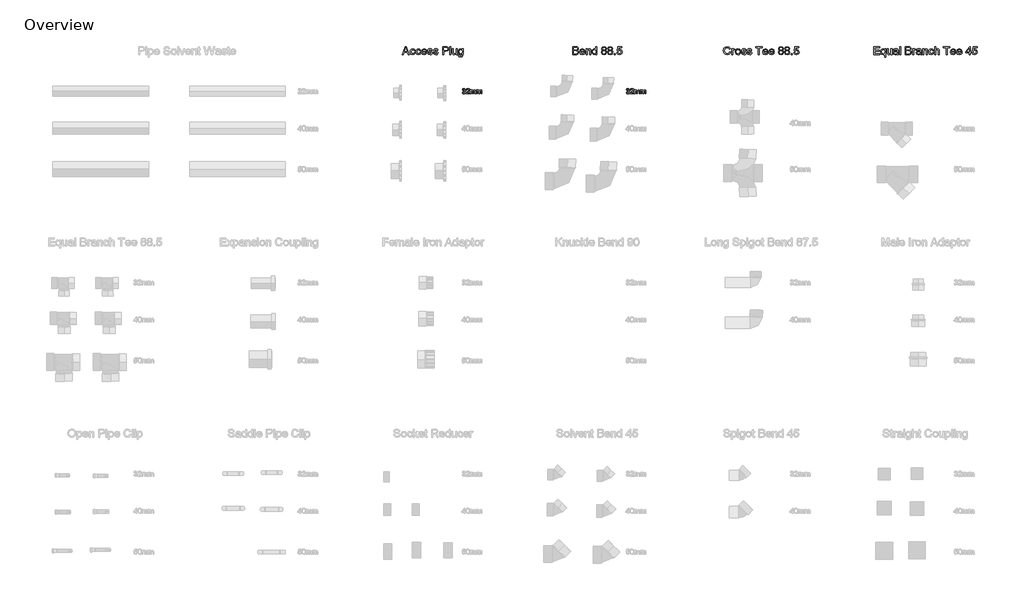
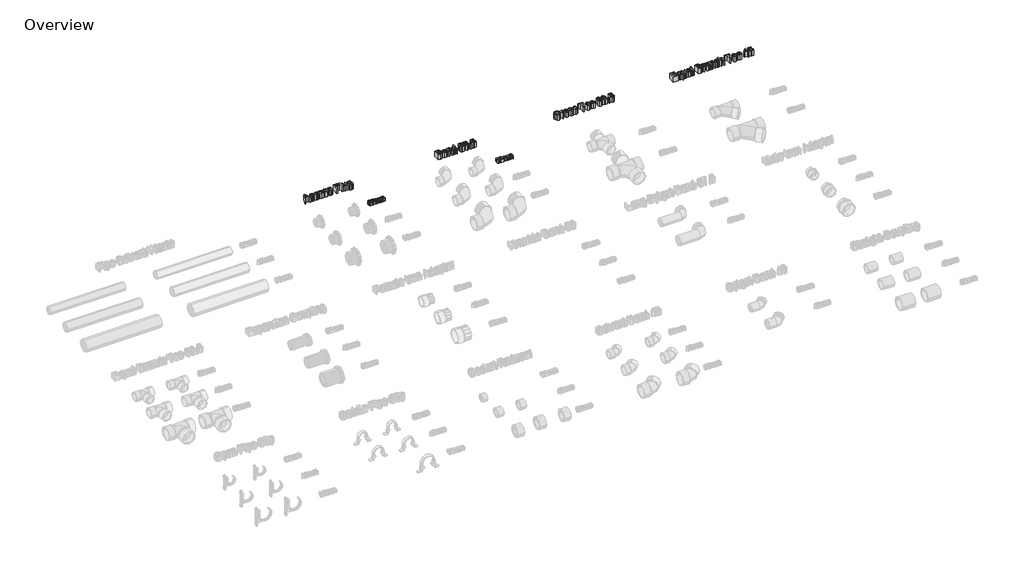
# One storey, part 9 of 10: 6 proxies.
"""IFC4 building model written with IfcOpenShell, lengths in millimetres."""

from ifc_helpers import new_model, si_unit, origin, origin_with_axes, place, context, project, spatial, polyline, outline, extrude, element, save

model = new_model("IFC4")

# Units and contexts
model_context = context("Model", 3, world=origin())
ifc_project = project(units=[si_unit("LENGTHUNIT", "METRE", prefix="MILLI")], contexts=[model_context])

# Site, building, storey
site = spatial("IfcSite", under=ifc_project)
building = spatial("IfcBuilding", under=site)
storey = spatial("IfcBuildingStorey", under=building, Name="Overview", Elevation=0.0)

# Proxies
placement = place(None, origin())
element("IfcBuildingElementProxy", 1, Name="20mm Arial", ObjectType="20mm Arial", at=placement, inside=storey, context=model_context, shape_type="SweptSolid", body=[
    extrude(outline(polyline([(-1698.2349117, 5121.4652453), (-1695.7733732, 5121.7729376), (-1694.4152001, 5119.1815914), (-1691.8743347, 5118.3883222), (-1688.8839501, 5119.4796684), (-1687.7733732, 5122.1815914), (-1688.8743347, 5124.7272645), (-1691.6724117, 5125.7344761), (-1693.3983732, 5125.4652453), (-1693.1243347, 5127.9267837), (-1689.9368347, 5128.6046684), (-1688.6964501, 5130.7777453), (-1689.5954886, 5132.7032261), (-1691.9127963, 5133.4652453), (-1694.2589501, 5132.6960145), (-1695.4656809, 5130.3883222), (-1697.9272194, 5130.6960145), (-1695.9127963, 5134.5565914), (-1691.9993347, 5135.9267837), (-1689.0305847, 5135.251303), (-1686.9536617, 5133.4051491), (-1686.2349117, 5130.9219761), (-1686.917604, 5128.6527453), (-1688.9368347, 5127.0229376), (-1686.2541424, 5125.3402453), (-1685.3118347, 5122.1383222), (-1687.1964501, 5117.7344761), (-1691.9608732, 5115.9267837), (-1696.2781809, 5117.470053), (-1698.2349117, 5121.4652453)])), origin_with_axes(), (0.0, 0.0, 1.0), 15.0),
    extrude(outline(polyline([(-1670.542604, 5118.6960145), (-1670.542604, 5116.2344761), (-1683.4656809, 5116.2344761), (-1683.2012578, 5117.9315914), (-1681.7060655, 5120.5445722), (-1678.6243347, 5123.3979376), (-1674.3743347, 5127.4988991), (-1673.3118347, 5130.2873607), (-1674.3142386, 5132.5445722), (-1676.9320271, 5133.4652453), (-1679.6603924, 5132.5662068), (-1680.6964501, 5130.0806299), (-1683.1579886, 5130.3883222), (-1681.2709694, 5134.5085145), (-1676.8791424, 5135.9267837), (-1672.4728924, 5134.3498607), (-1670.8502963, 5130.4363991), (-1671.2877963, 5128.1022645), (-1672.7421232, 5125.688803), (-1676.2685655, 5122.3162068), (-1679.1002963, 5119.9484184), (-1680.2108732, 5118.6960145), (-1670.542604, 5118.6960145)])), origin_with_axes(), (0.0, 0.0, 1.0), 15.0),
    extrude(outline(polyline([(-1667.4656809, 5116.2344761), (-1667.4656809, 5130.6960145), (-1665.0041424, 5130.6960145), (-1665.0041424, 5128.3162068), (-1663.3118347, 5130.2657261), (-1660.9031809, 5131.0037068), (-1658.4368347, 5130.251303), (-1657.0810655, 5128.1431299), (-1652.7349117, 5131.0037068), (-1649.5161617, 5129.813803), (-1648.3887578, 5126.1479376), (-1648.3887578, 5116.2344761), (-1650.8502963, 5116.2344761), (-1650.8502963, 5125.0902453), (-1651.0786617, 5127.1455337), (-1655.7325078, 5127.5565914), (-1656.6964501, 5124.3979376), (-1656.6964501, 5116.2344761), (-1659.1579886, 5116.2344761), (-1659.1579886, 5125.3642837), (-1659.7277001, 5127.7488991), (-1661.5954886, 5128.5421684), (-1663.417604, 5128.0133222), (-1664.6291424, 5126.4652453), (-1665.0041424, 5123.5277453), (-1665.0041424, 5116.2344761), (-1667.4656809, 5116.2344761)])), origin_with_axes(), (0.0, 0.0, 1.0), 15.0),
    extrude(outline(polyline([(-1644.6964501, 5116.2344761), (-1644.6964501, 5130.6960145), (-1642.2349117, 5130.6960145), (-1642.2349117, 5128.3162068), (-1640.542604, 5130.2657261), (-1638.1339501, 5131.0037068), (-1635.667604, 5130.251303), (-1634.3118347, 5128.1431299), (-1629.9656809, 5131.0037068), (-1626.7469309, 5129.813803), (-1625.6195271, 5126.1479376), (-1625.6195271, 5116.2344761), (-1628.0810655, 5116.2344761), (-1628.0810655, 5125.0902453), (-1628.3094309, 5127.1455337), (-1632.9632771, 5127.5565914), (-1633.9272194, 5124.3979376), (-1633.9272194, 5116.2344761), (-1636.3887578, 5116.2344761), (-1636.3887578, 5125.3642837), (-1636.9584694, 5127.7488991), (-1638.8262578, 5128.5421684), (-1640.6483732, 5128.0133222), (-1641.8599117, 5126.4652453), (-1642.2349117, 5123.5277453), (-1642.2349117, 5116.2344761), (-1644.6964501, 5116.2344761)])), origin_with_axes(), (0.0, 0.0, 1.0), 15.0),
])
element("IfcBuildingElementProxy", 2, Name="20mm Arial", ObjectType="20mm Arial", at=placement, inside=storey, context=model_context, shape_type="SweptSolid", body=[
    extrude(outline(polyline([(-1098.2349117, 5121.4652453), (-1095.7733732, 5121.7729376), (-1094.4152001, 5119.1815914), (-1091.8743347, 5118.3883222), (-1088.8839501, 5119.4796684), (-1087.7733732, 5122.1815914), (-1088.8743347, 5124.7272645), (-1091.6724117, 5125.7344761), (-1093.3983732, 5125.4652453), (-1093.1243347, 5127.9267837), (-1089.9368347, 5128.6046684), (-1088.6964501, 5130.7777453), (-1089.5954886, 5132.7032261), (-1091.9127963, 5133.4652453), (-1094.2589501, 5132.6960145), (-1095.4656809, 5130.3883222), (-1097.9272194, 5130.6960145), (-1095.9127963, 5134.5565914), (-1091.9993347, 5135.9267837), (-1089.0305847, 5135.251303), (-1086.9536617, 5133.4051491), (-1086.2349117, 5130.9219761), (-1086.917604, 5128.6527453), (-1088.9368347, 5127.0229376), (-1086.2541424, 5125.3402453), (-1085.3118347, 5122.1383222), (-1087.1964501, 5117.7344761), (-1091.9608732, 5115.9267837), (-1096.2781809, 5117.470053), (-1098.2349117, 5121.4652453)])), origin_with_axes(), (0.0, 0.0, 1.0), 15.0),
    extrude(outline(polyline([(-1070.542604, 5118.6960145), (-1070.542604, 5116.2344761), (-1083.4656809, 5116.2344761), (-1083.2012578, 5117.9315914), (-1081.7060655, 5120.5445722), (-1078.6243347, 5123.3979376), (-1074.3743347, 5127.4988991), (-1073.3118347, 5130.2873607), (-1074.3142386, 5132.5445722), (-1076.9320271, 5133.4652453), (-1079.6603924, 5132.5662068), (-1080.6964501, 5130.0806299), (-1083.1579886, 5130.3883222), (-1081.2709694, 5134.5085145), (-1076.8791424, 5135.9267837), (-1072.4728924, 5134.3498607), (-1070.8502963, 5130.4363991), (-1071.2877963, 5128.1022645), (-1072.7421232, 5125.688803), (-1076.2685655, 5122.3162068), (-1079.1002963, 5119.9484184), (-1080.2108732, 5118.6960145), (-1070.542604, 5118.6960145)])), origin_with_axes(), (0.0, 0.0, 1.0), 15.0),
    extrude(outline(polyline([(-1067.4656809, 5116.2344761), (-1067.4656809, 5130.6960145), (-1065.0041424, 5130.6960145), (-1065.0041424, 5128.3162068), (-1063.3118347, 5130.2657261), (-1060.9031809, 5131.0037068), (-1058.4368347, 5130.251303), (-1057.0810655, 5128.1431299), (-1052.7349117, 5131.0037068), (-1049.5161617, 5129.813803), (-1048.3887578, 5126.1479376), (-1048.3887578, 5116.2344761), (-1050.8502963, 5116.2344761), (-1050.8502963, 5125.0902453), (-1051.0786617, 5127.1455337), (-1055.7325078, 5127.5565914), (-1056.6964501, 5124.3979376), (-1056.6964501, 5116.2344761), (-1059.1579886, 5116.2344761), (-1059.1579886, 5125.3642837), (-1059.7277001, 5127.7488991), (-1061.5954886, 5128.5421684), (-1063.417604, 5128.0133222), (-1064.6291424, 5126.4652453), (-1065.0041424, 5123.5277453), (-1065.0041424, 5116.2344761), (-1067.4656809, 5116.2344761)])), origin_with_axes(), (0.0, 0.0, 1.0), 15.0),
    extrude(outline(polyline([(-1044.6964501, 5116.2344761), (-1044.6964501, 5130.6960145), (-1042.2349117, 5130.6960145), (-1042.2349117, 5128.3162068), (-1040.542604, 5130.2657261), (-1038.1339501, 5131.0037068), (-1035.667604, 5130.251303), (-1034.3118347, 5128.1431299), (-1029.9656809, 5131.0037068), (-1026.7469309, 5129.813803), (-1025.6195271, 5126.1479376), (-1025.6195271, 5116.2344761), (-1028.0810655, 5116.2344761), (-1028.0810655, 5125.0902453), (-1028.3094309, 5127.1455337), (-1032.9632771, 5127.5565914), (-1033.9272194, 5124.3979376), (-1033.9272194, 5116.2344761), (-1036.3887578, 5116.2344761), (-1036.3887578, 5125.3642837), (-1036.9584694, 5127.7488991), (-1038.8262578, 5128.5421684), (-1040.6483732, 5128.0133222), (-1041.8599117, 5126.4652453), (-1042.2349117, 5123.5277453), (-1042.2349117, 5116.2344761), (-1044.6964501, 5116.2344761)])), origin_with_axes(), (0.0, 0.0, 1.0), 15.0),
])
element("IfcBuildingElementProxy", 3, Name="600mm Arial", ObjectType="600mm Arial", at=placement, inside=storey, context=model_context, shape_type="SweptSolid", body=[
    extrude(outline(polyline([(-1917.2014896, 5259.5713154), (-1905.4106242, 5289.1097769), (-1902.2663934, 5289.1097769), (-1890.475528, 5259.5713154), (-1894.3769703, 5259.5713154), (-1897.7591819, 5268.8020846), (-1909.9250472, 5268.8020846), (-1913.3000472, 5259.5713154), (-1917.2014896, 5259.5713154)]), holes=[polyline([(-1908.569278, 5272.4943923), (-1899.1077396, 5272.4943923), (-1901.7687972, 5279.7564115), (-1903.8385088, 5285.4174692), (-1905.6774511, 5280.3910269), (-1908.569278, 5272.4943923)])]), origin_with_axes(), (0.0, 0.0, 1.0), 25.0),
    extrude(outline(polyline([(-1873.1462011, 5267.4174692), (-1869.4538934, 5266.9559308), (-1872.4178357, 5261.1903058), (-1878.2736049, 5259.1097769), (-1885.272403, 5262.0124212), (-1887.9154319, 5270.3381423), (-1886.7868261, 5276.4715558), (-1883.3469222, 5280.4126615), (-1878.3240857, 5281.7251615), (-1872.709903, 5279.9222769), (-1869.9154319, 5274.8020846), (-1873.6077396, 5274.3405462), (-1875.3204799, 5277.1061712), (-1878.2952396, 5278.0328538), (-1882.5752876, 5276.2083346), (-1884.2231242, 5270.4391038), (-1882.6113453, 5264.6157865), (-1878.3962011, 5262.8020846), (-1874.9166338, 5263.9342962), (-1873.1462011, 5267.4174692)])), origin_with_axes(), (0.0, 0.0, 1.0), 25.0),
    extrude(outline(polyline([(-1852.3769703, 5267.4174692), (-1848.6846626, 5266.9559308), (-1851.6486049, 5261.1903058), (-1857.5043742, 5259.1097769), (-1864.5031722, 5262.0124212), (-1867.1462011, 5270.3381423), (-1866.0175953, 5276.4715558), (-1862.5776915, 5280.4126615), (-1857.5548549, 5281.7251615), (-1851.9406722, 5279.9222769), (-1849.1462011, 5274.8020846), (-1852.8385088, 5274.3405462), (-1854.5512492, 5277.1061712), (-1857.5260088, 5278.0328538), (-1861.8060569, 5276.2083346), (-1863.4538934, 5270.4391038), (-1861.8421146, 5264.6157865), (-1857.6269703, 5262.8020846), (-1854.147403, 5263.9342962), (-1852.3769703, 5267.4174692)])), origin_with_axes(), (0.0, 0.0, 1.0), 25.0),
    extrude(outline(polyline([(-1830.2663934, 5266.0328538), (-1826.6462011, 5265.5713154), (-1830.0320184, 5260.8044885), (-1836.3385088, 5259.1097769), (-1844.0043742, 5262.0340558), (-1846.8385088, 5270.2371808), (-1843.975528, 5278.7107385), (-1836.5476434, 5281.7251615), (-1829.3324992, 5278.71795), (-1826.5308165, 5270.2588154), (-1843.1462011, 5269.2636231), (-1841.022403, 5264.46795), (-1836.2663934, 5262.8020846), (-1832.6462011, 5263.5737192), (-1830.2663934, 5266.0328538)]), holes=[polyline([(-1843.1462011, 5272.9559308), (-1830.2231242, 5272.9559308), (-1831.7014896, 5276.3020846), (-1836.5620665, 5278.0328538), (-1841.1089415, 5276.6518442), (-1843.1462011, 5272.9559308)])]), origin_with_axes(), (0.0, 0.0, 1.0), 25.0),
    extrude(outline(polyline([(-1824.2231242, 5266.0328538), (-1820.5308165, 5266.4943923), (-1818.8216819, 5263.7540077), (-1814.9058165, 5262.8020846), (-1811.1413934, 5263.6746808), (-1809.9154319, 5265.7227577), (-1811.1486049, 5267.3814115), (-1814.9490857, 5268.4342962), (-1820.5091819, 5270.2407865), (-1822.9358646, 5272.3501615), (-1823.7615857, 5275.3285269), (-1823.0981242, 5278.0797288), (-1821.288028, 5280.1818923), (-1818.9406722, 5281.2744404), (-1815.7639896, 5281.7251615), (-1811.2712011, 5281.0004019), (-1808.4154319, 5279.0388635), (-1807.1462011, 5275.7251615), (-1810.8385088, 5275.2636231), (-1812.2267299, 5277.3008827), (-1815.475528, 5278.0328538), (-1819.0091819, 5277.3333346), (-1820.069278, 5275.7035269), (-1818.2519703, 5273.8141038), (-1815.0716819, 5273.0280462), (-1809.6522107, 5271.2900654), (-1807.1353838, 5269.3213154), (-1806.2231242, 5266.1121808), (-1807.2940376, 5262.5785269), (-1810.3841819, 5260.014825), (-1814.9562972, 5259.1097769), (-1821.3962011, 5260.8549692), (-1824.2231242, 5266.0328538)])), origin_with_axes(), (0.0, 0.0, 1.0), 25.0),
    extrude(outline(polyline([(-1803.4538934, 5266.0328538), (-1799.7615857, 5266.4943923), (-1798.0524511, 5263.7540077), (-1794.1365857, 5262.8020846), (-1790.3721626, 5263.6746808), (-1789.1462011, 5265.7227577), (-1790.3793742, 5267.3814115), (-1794.1798549, 5268.4342962), (-1799.7399511, 5270.2407865), (-1802.1666338, 5272.3501615), (-1802.9923549, 5275.3285269), (-1802.3288934, 5278.0797288), (-1800.5187972, 5280.1818923), (-1798.1714415, 5281.2744404), (-1794.9947588, 5281.7251615), (-1790.5019703, 5281.0004019), (-1787.6462011, 5279.0388635), (-1786.3769703, 5275.7251615), (-1790.069278, 5275.2636231), (-1791.4574992, 5277.3008827), (-1794.7062972, 5278.0328538), (-1798.2399511, 5277.3333346), (-1799.3000472, 5275.7035269), (-1797.4827396, 5273.8141038), (-1794.3024511, 5273.0280462), (-1788.8829799, 5271.2900654), (-1786.366153, 5269.3213154), (-1785.4538934, 5266.1121808), (-1786.5248069, 5262.5785269), (-1789.6149511, 5260.014825), (-1794.1870665, 5259.1097769), (-1800.6269703, 5260.8549692), (-1803.4538934, 5266.0328538)])), origin_with_axes(), (0.0, 0.0, 1.0), 25.0),
    extrude(outline(polyline([(-1769.3000472, 5259.5713154), (-1769.3000472, 5289.1097769), (-1758.3529319, 5289.1097769), (-1753.9394703, 5288.8285269), (-1750.3517299, 5287.4475173), (-1748.0260088, 5284.5917481), (-1747.1462011, 5280.5641038), (-1749.522403, 5274.1818923), (-1758.100528, 5271.5713154), (-1765.6077396, 5271.5713154), (-1765.6077396, 5259.5713154), (-1769.3000472, 5259.5713154)]), holes=[polyline([(-1765.6077396, 5275.2636231), (-1757.8841819, 5275.2636231), (-1752.4466819, 5276.6193923), (-1750.8385088, 5280.4342962), (-1751.7868261, 5283.4919885), (-1754.2784126, 5285.1650654), (-1757.9707203, 5285.4174692), (-1765.6077396, 5285.4174692), (-1765.6077396, 5275.2636231)])]), origin_with_axes(), (0.0, 0.0, 1.0), 25.0),
    extrude(outline(polyline([(-1742.5308165, 5259.5713154), (-1742.5308165, 5289.1097769), (-1738.8385088, 5289.1097769), (-1738.8385088, 5259.5713154), (-1742.5308165, 5259.5713154)])), origin_with_axes(), (0.0, 0.0, 1.0), 25.0),
    extrude(outline(polyline([(-1719.4538934, 5259.5713154), (-1719.4538934, 5263.2996808), (-1726.1173549, 5259.1097769), (-1729.5897107, 5259.8453538), (-1731.9839415, 5261.6915077), (-1733.0837011, 5264.4102577), (-1733.3000472, 5267.84295), (-1733.3000472, 5281.2636231), (-1729.6077396, 5281.2636231), (-1729.6077396, 5269.5809308), (-1729.3841819, 5265.8165077), (-1727.9238453, 5263.6061712), (-1725.1726434, 5262.8020846), (-1722.0897107, 5263.6242), (-1720.0524511, 5265.8633827), (-1719.4538934, 5269.9775654), (-1719.4538934, 5281.2636231), (-1715.7615857, 5281.2636231), (-1715.7615857, 5259.5713154), (-1719.4538934, 5259.5713154)])), origin_with_axes(), (0.0, 0.0, 1.0), 25.0),
    extrude(outline(polyline([(-1711.6077396, 5257.7251615), (-1707.9154319, 5257.2636231), (-1706.7183165, 5255.3165077), (-1703.1341819, 5254.4943923), (-1699.3553357, 5255.4246808), (-1697.5524511, 5258.0352577), (-1697.3000472, 5262.3405462), (-1703.069278, 5259.5713154), (-1709.7147107, 5262.7948731), (-1712.069278, 5270.5256423), (-1711.0127876, 5276.2479981), (-1707.9550953, 5280.2972769), (-1703.2495665, 5281.7251615), (-1697.3000472, 5278.4943923), (-1697.3000472, 5281.2636231), (-1693.6077396, 5281.2636231), (-1693.6077396, 5262.5352577), (-1694.6173549, 5255.3633827), (-1697.8156722, 5252.0280462), (-1703.2062972, 5250.8020846), (-1709.3469222, 5252.5292481), (-1711.6077396, 5257.7251615)]), holes=[polyline([(-1708.3769703, 5270.7780462), (-1706.8012492, 5265.0629019), (-1702.8457203, 5263.2636231), (-1698.897403, 5265.0520846), (-1697.3000472, 5270.6698731), (-1698.944278, 5276.1758827), (-1702.9034126, 5278.0328538), (-1706.7796146, 5276.2047288), (-1708.3769703, 5270.7780462)])]), origin_with_axes(), (0.0, 0.0, 1.0), 25.0),
])
element("IfcBuildingElementProxy", 4, Name="600mm Arial", ObjectType="600mm Arial", at=placement, inside=storey, context=model_context, shape_type="SweptSolid", body=[
    extrude(outline(polyline([(-1293.6846626, 5259.5713154), (-1293.6846626, 5289.1097769), (-1282.413028, 5289.1097769), (-1276.8925953, 5288.2407865), (-1273.6329799, 5285.5689115), (-1272.4538934, 5281.7900654), (-1273.4454799, 5278.3393442), (-1276.4418742, 5275.7251615), (-1272.803653, 5272.9703538), (-1271.5308165, 5268.3766038), (-1272.3998069, 5264.4066519), (-1274.5524511, 5261.5797288), (-1277.7651915, 5260.0797288), (-1282.4995665, 5259.5713154), (-1293.6846626, 5259.5713154)]), holes=[polyline([(-1289.9923549, 5277.1097769), (-1283.2495665, 5277.1097769), (-1279.3120665, 5277.4270846), (-1276.9430761, 5278.7936712), (-1276.1462011, 5281.1987192), (-1276.8889896, 5283.6073731), (-1279.0163934, 5285.0316519), (-1283.7615857, 5285.4174692), (-1289.9923549, 5285.4174692), (-1289.9923549, 5277.1097769)]), polyline([(-1289.9923549, 5263.2636231), (-1282.4202396, 5263.2636231), (-1279.6798549, 5263.4078538), (-1277.3613453, 5264.2119404), (-1275.8252876, 5265.8525654), (-1275.2231242, 5268.3405462), (-1275.9298549, 5271.2107385), (-1278.2195184, 5272.9234788), (-1282.7808165, 5273.4174692), (-1289.9923549, 5273.4174692), (-1289.9923549, 5263.2636231)])]), origin_with_axes(), (0.0, 0.0, 1.0), 25.0),
    extrude(outline(polyline([(-1251.7279319, 5266.0328538), (-1248.1077396, 5265.5713154), (-1251.4935569, 5260.8044885), (-1257.8000472, 5259.1097769), (-1265.4659126, 5262.0340558), (-1268.3000472, 5270.2371808), (-1265.4370665, 5278.7107385), (-1258.0091819, 5281.7251615), (-1250.7940376, 5278.71795), (-1247.9923549, 5270.2588154), (-1264.6077396, 5269.2636231), (-1262.4839415, 5264.46795), (-1257.7279319, 5262.8020846), (-1254.1077396, 5263.5737192), (-1251.7279319, 5266.0328538)]), holes=[polyline([(-1264.6077396, 5272.9559308), (-1251.6846626, 5272.9559308), (-1253.163028, 5276.3020846), (-1258.0236049, 5278.0328538), (-1262.5704799, 5276.6518442), (-1264.6077396, 5272.9559308)])]), origin_with_axes(), (0.0, 0.0, 1.0), 25.0),
    extrude(outline(polyline([(-1244.3000472, 5259.5713154), (-1244.3000472, 5281.2636231), (-1240.6077396, 5281.2636231), (-1240.6077396, 5278.2347769), (-1233.9298549, 5281.7251615), (-1230.4430761, 5281.0220365), (-1228.0632684, 5279.1758827), (-1226.9562972, 5276.4607385), (-1226.7615857, 5272.8910269), (-1226.7615857, 5259.5713154), (-1230.4538934, 5259.5713154), (-1230.4538934, 5272.3934308), (-1230.8793742, 5275.6602577), (-1232.3829799, 5277.3874212), (-1234.9178357, 5278.0328538), (-1238.9238453, 5276.5833346), (-1240.6077396, 5271.0809308), (-1240.6077396, 5259.5713154), (-1244.3000472, 5259.5713154)])), origin_with_axes(), (0.0, 0.0, 1.0), 25.0),
    extrude(outline(polyline([(-1208.3000472, 5259.5713154), (-1208.3000472, 5263.0544885), (-1214.1197588, 5259.1097769), (-1218.6918742, 5260.5376615), (-1221.9226434, 5264.5220365), (-1223.069278, 5270.3958346), (-1222.0127876, 5276.2732385), (-1218.8469222, 5280.3189115), (-1214.1341819, 5281.7251615), (-1210.7303357, 5280.7191519), (-1208.3000472, 5278.1049692), (-1208.3000472, 5289.1097769), (-1204.6077396, 5289.1097769), (-1204.6077396, 5259.5713154), (-1208.3000472, 5259.5713154)]), holes=[polyline([(-1219.3769703, 5270.4102577), (-1217.7111049, 5264.6951135), (-1213.7808165, 5262.8020846), (-1209.897403, 5264.608575), (-1208.3000472, 5270.1290077), (-1209.9262492, 5276.1217962), (-1213.9322588, 5278.0328538), (-1217.819278, 5276.1975173), (-1219.3769703, 5270.4102577)])]), origin_with_axes(), (0.0, 0.0, 1.0), 25.0),
    extrude(outline(polyline([(-1183.0740857, 5275.8405462), (-1186.4382684, 5278.1338154), (-1187.5308165, 5281.7035269), (-1185.1510088, 5286.9751615), (-1178.8120665, 5289.1097769), (-1172.4154319, 5286.9246808), (-1169.9923549, 5281.6025654), (-1171.0704799, 5278.1229981), (-1174.3409126, 5275.8405462), (-1170.4142299, 5272.9451135), (-1169.069278, 5268.1674692), (-1171.7375472, 5261.7203538), (-1178.7615857, 5259.1097769), (-1185.7856242, 5261.7311712), (-1188.4538934, 5268.2684308), (-1187.0548549, 5273.1578538), (-1183.0740857, 5275.8405462)]), holes=[polyline([(-1183.8385088, 5281.5953538), (-1182.5296146, 5278.6963154), (-1178.7183165, 5277.5713154), (-1174.9827396, 5278.6891038), (-1173.6846626, 5281.4294885), (-1175.0260088, 5284.2672288), (-1178.7615857, 5285.4174692), (-1182.5079799, 5284.2924692), (-1183.8385088, 5281.5953538)]), polyline([(-1184.7615857, 5268.3982385), (-1184.1449992, 5265.6181904), (-1181.9635088, 5263.5376615), (-1178.7327396, 5262.8020846), (-1174.3337011, 5264.3489596), (-1172.7615857, 5268.2828538), (-1174.3841819, 5272.2924692), (-1178.8553357, 5273.8790077), (-1183.2002876, 5272.3141038), (-1184.7615857, 5268.3982385)])]), origin_with_axes(), (0.0, 0.0, 1.0), 25.0),
    extrude(outline(polyline([(-1160.4587011, 5275.8405462), (-1163.8228838, 5278.1338154), (-1164.9154319, 5281.7035269), (-1162.5356242, 5286.9751615), (-1156.1966819, 5289.1097769), (-1149.8000472, 5286.9246808), (-1147.3769703, 5281.6025654), (-1148.4550953, 5278.1229981), (-1151.725528, 5275.8405462), (-1147.7988453, 5272.9451135), (-1146.4538934, 5268.1674692), (-1149.1221626, 5261.7203538), (-1156.1462011, 5259.1097769), (-1163.1702396, 5261.7311712), (-1165.8385088, 5268.2684308), (-1164.4394703, 5273.1578538), (-1160.4587011, 5275.8405462)]), holes=[polyline([(-1161.2231242, 5281.5953538), (-1159.9142299, 5278.6963154), (-1156.1029319, 5277.5713154), (-1152.3673549, 5278.6891038), (-1151.069278, 5281.4294885), (-1152.4106242, 5284.2672288), (-1156.1462011, 5285.4174692), (-1159.8925953, 5284.2924692), (-1161.2231242, 5281.5953538)]), polyline([(-1162.1462011, 5268.3982385), (-1161.5296146, 5265.6181904), (-1159.3481242, 5263.5376615), (-1156.1173549, 5262.8020846), (-1151.7183165, 5264.3489596), (-1150.1462011, 5268.2828538), (-1151.7687972, 5272.2924692), (-1156.2399511, 5273.8790077), (-1160.584903, 5272.3141038), (-1162.1462011, 5268.3982385)])]), origin_with_axes(), (0.0, 0.0, 1.0), 25.0),
    extrude(outline(polyline([(-1141.3769703, 5259.5713154), (-1141.3769703, 5263.2636231), (-1137.6846626, 5263.2636231), (-1137.6846626, 5259.5713154), (-1141.3769703, 5259.5713154)])), origin_with_axes(), (0.0, 0.0, 1.0), 25.0),
    extrude(outline(polyline([(-1131.6846626, 5267.4174692), (-1127.9923549, 5267.8790077), (-1126.131778, 5264.0749212), (-1122.2736049, 5262.8020846), (-1117.6437972, 5264.5725173), (-1115.9923549, 5269.2708346), (-1117.5392299, 5273.65545), (-1122.2159126, 5275.2636231), (-1125.4574992, 5274.6217962), (-1127.5308165, 5272.9559308), (-1131.2231242, 5273.4174692), (-1127.9923549, 5288.6482385), (-1113.6846626, 5288.6482385), (-1113.6846626, 5284.9559308), (-1125.006778, 5284.9559308), (-1126.5861049, 5276.8213154), (-1121.1846626, 5278.9559308), (-1114.8709607, 5276.3092962), (-1112.3000472, 5269.5016038), (-1114.6149511, 5262.6506423), (-1122.288028, 5259.1097769), (-1128.803653, 5261.3850173), (-1131.6846626, 5267.4174692)])), origin_with_axes(), (0.0, 0.0, 1.0), 25.0),
])
element("IfcBuildingElementProxy", 5, Name="600mm Arial", ObjectType="600mm Arial", at=placement, inside=storey, context=model_context, shape_type="SweptSolid", body=[
    extrude(outline(polyline([(-719.9923549, 5270.0713154), (-716.3000472, 5269.1193923), (-720.6774511, 5261.6734788), (-728.4082203, 5259.1097769), (-736.0921146, 5261.0496808), (-740.5993261, 5266.6674692), (-742.1462011, 5274.5641038), (-740.397403, 5282.5905462), (-735.4250472, 5287.7936712), (-728.3288934, 5289.5713154), (-720.9334607, 5287.2708346), (-716.7615857, 5280.7948731), (-720.4538934, 5279.9150654), (-723.4827396, 5284.4547288), (-728.4731242, 5285.8790077), (-734.2495665, 5284.2996808), (-737.5127876, 5280.0592962), (-738.4538934, 5274.5713154), (-737.3397107, 5268.2107385), (-733.8709607, 5264.1470365), (-728.7760088, 5262.8020846), (-723.1257684, 5264.6338154), (-719.9923549, 5270.0713154)])), origin_with_axes(), (0.0, 0.0, 1.0), 25.0),
    extrude(outline(polyline([(-711.6846626, 5259.5713154), (-711.6846626, 5281.2636231), (-708.4538934, 5281.2636231), (-708.4538934, 5278.0544885), (-706.1606242, 5281.0112192), (-703.8529319, 5281.7251615), (-700.1462011, 5280.5857385), (-701.3793742, 5277.2756423), (-703.975528, 5278.0328538), (-706.0632684, 5277.3044885), (-707.3937972, 5275.2852577), (-707.9923549, 5270.9727577), (-707.9923549, 5259.5713154), (-711.6846626, 5259.5713154)])), origin_with_axes(), (0.0, 0.0, 1.0), 25.0),
    extrude(outline(polyline([(-698.7615857, 5270.4174692), (-695.5668742, 5279.3237192), (-689.0620665, 5281.7251615), (-682.084903, 5278.8008827), (-679.3769703, 5270.7203538), (-680.5740857, 5264.1506423), (-684.0608646, 5260.4330942), (-689.0620665, 5259.1097769), (-696.0824992, 5262.0232385), (-698.7615857, 5270.4174692)]), holes=[polyline([(-695.069278, 5270.4246808), (-693.3601434, 5264.702325), (-689.0620665, 5262.8020846), (-684.7784126, 5264.7131423), (-683.069278, 5270.5400654), (-684.7892299, 5276.1326135), (-689.0620665, 5278.0328538), (-693.3601434, 5276.139825), (-695.069278, 5270.4246808)])]), origin_with_axes(), (0.0, 0.0, 1.0), 25.0),
    extrude(outline(polyline([(-676.6077396, 5266.0328538), (-672.9154319, 5266.4943923), (-671.2062972, 5263.7540077), (-667.2904319, 5262.8020846), (-663.5260088, 5263.6746808), (-662.3000472, 5265.7227577), (-663.5332203, 5267.3814115), (-667.3337011, 5268.4342962), (-672.8937972, 5270.2407865), (-675.3204799, 5272.3501615), (-676.1462011, 5275.3285269), (-675.4827396, 5278.0797288), (-673.6726434, 5280.1818923), (-671.3252876, 5281.2744404), (-668.1486049, 5281.7251615), (-663.6558165, 5281.0004019), (-660.8000472, 5279.0388635), (-659.5308165, 5275.7251615), (-663.2231242, 5275.2636231), (-664.6113453, 5277.3008827), (-667.8601434, 5278.0328538), (-671.3937972, 5277.3333346), (-672.4538934, 5275.7035269), (-670.6365857, 5273.8141038), (-667.4562972, 5273.0280462), (-662.0368261, 5271.2900654), (-659.5199992, 5269.3213154), (-658.6077396, 5266.1121808), (-659.678653, 5262.5785269), (-662.7687972, 5260.014825), (-667.3409126, 5259.1097769), (-673.7808165, 5260.8549692), (-676.6077396, 5266.0328538)])), origin_with_axes(), (0.0, 0.0, 1.0), 25.0),
    extrude(outline(polyline([(-655.8385088, 5266.0328538), (-652.1462011, 5266.4943923), (-650.4370665, 5263.7540077), (-646.5212011, 5262.8020846), (-642.756778, 5263.6746808), (-641.5308165, 5265.7227577), (-642.7639896, 5267.3814115), (-646.5644703, 5268.4342962), (-652.1245665, 5270.2407865), (-654.5512492, 5272.3501615), (-655.3769703, 5275.3285269), (-654.7135088, 5278.0797288), (-652.9034126, 5280.1818923), (-650.5560569, 5281.2744404), (-647.3793742, 5281.7251615), (-642.8865857, 5281.0004019), (-640.0308165, 5279.0388635), (-638.7615857, 5275.7251615), (-642.4538934, 5275.2636231), (-643.8421146, 5277.3008827), (-647.0909126, 5278.0328538), (-650.6245665, 5277.3333346), (-651.6846626, 5275.7035269), (-649.8673549, 5273.8141038), (-646.6870665, 5273.0280462), (-641.2675953, 5271.2900654), (-638.7507684, 5269.3213154), (-637.8385088, 5266.1121808), (-638.9094222, 5262.5785269), (-641.9995665, 5260.014825), (-646.5716819, 5259.1097769), (-653.0115857, 5260.8549692), (-655.8385088, 5266.0328538)])), origin_with_axes(), (0.0, 0.0, 1.0), 25.0),
    extrude(outline(polyline([(-614.3000472, 5259.5713154), (-614.3000472, 5285.4174692), (-623.9923549, 5285.4174692), (-623.9923549, 5289.1097769), (-600.9154319, 5289.1097769), (-600.9154319, 5285.4174692), (-610.6077396, 5285.4174692), (-610.6077396, 5259.5713154), (-614.3000472, 5259.5713154)])), origin_with_axes(), (0.0, 0.0, 1.0), 25.0),
    extrude(outline(polyline([(-582.0356242, 5266.0328538), (-578.4154319, 5265.5713154), (-581.8012492, 5260.8044885), (-588.1077396, 5259.1097769), (-595.7736049, 5262.0340558), (-598.6077396, 5270.2371808), (-595.7447588, 5278.7107385), (-588.3168742, 5281.7251615), (-581.1017299, 5278.71795), (-578.3000472, 5270.2588154), (-594.9154319, 5269.2636231), (-592.7916338, 5264.46795), (-588.0356242, 5262.8020846), (-584.4154319, 5263.5737192), (-582.0356242, 5266.0328538)]), holes=[polyline([(-594.9154319, 5272.9559308), (-581.9923549, 5272.9559308), (-583.4707203, 5276.3020846), (-588.3312972, 5278.0328538), (-592.8781722, 5276.6518442), (-594.9154319, 5272.9559308)])]), origin_with_axes(), (0.0, 0.0, 1.0), 25.0),
    extrude(outline(polyline([(-559.4202396, 5266.0328538), (-555.8000472, 5265.5713154), (-559.1858646, 5260.8044885), (-565.4923549, 5259.1097769), (-573.1582203, 5262.0340558), (-575.9923549, 5270.2371808), (-573.1293742, 5278.7107385), (-565.7014896, 5281.7251615), (-558.4863453, 5278.71795), (-555.6846626, 5270.2588154), (-572.3000472, 5269.2636231), (-570.1762492, 5264.46795), (-565.4202396, 5262.8020846), (-561.8000472, 5263.5737192), (-559.4202396, 5266.0328538)]), holes=[polyline([(-572.3000472, 5272.9559308), (-559.3769703, 5272.9559308), (-560.8553357, 5276.3020846), (-565.7159126, 5278.0328538), (-570.2627876, 5276.6518442), (-572.3000472, 5272.9559308)])]), origin_with_axes(), (0.0, 0.0, 1.0), 25.0),
    extrude(outline(polyline([(-535.9971626, 5275.8405462), (-539.3613453, 5278.1338154), (-540.4538934, 5281.7035269), (-538.0740857, 5286.9751615), (-531.7351434, 5289.1097769), (-525.3385088, 5286.9246808), (-522.9154319, 5281.6025654), (-523.9935569, 5278.1229981), (-527.2639896, 5275.8405462), (-523.3373069, 5272.9451135), (-521.9923549, 5268.1674692), (-524.6606242, 5261.7203538), (-531.6846626, 5259.1097769), (-538.7087011, 5261.7311712), (-541.3769703, 5268.2684308), (-539.9779319, 5273.1578538), (-535.9971626, 5275.8405462)]), holes=[polyline([(-536.7615857, 5281.5953538), (-535.4526915, 5278.6963154), (-531.6413934, 5277.5713154), (-527.9058165, 5278.6891038), (-526.6077396, 5281.4294885), (-527.9490857, 5284.2672288), (-531.6846626, 5285.4174692), (-535.4310569, 5284.2924692), (-536.7615857, 5281.5953538)]), polyline([(-537.6846626, 5268.3982385), (-537.0680761, 5265.6181904), (-534.8865857, 5263.5376615), (-531.6558165, 5262.8020846), (-527.256778, 5264.3489596), (-525.6846626, 5268.2828538), (-527.3072588, 5272.2924692), (-531.7784126, 5273.8790077), (-536.1233646, 5272.3141038), (-537.6846626, 5268.3982385)])]), origin_with_axes(), (0.0, 0.0, 1.0), 25.0),
    extrude(outline(polyline([(-513.381778, 5275.8405462), (-516.7459607, 5278.1338154), (-517.8385088, 5281.7035269), (-515.4587011, 5286.9751615), (-509.1197588, 5289.1097769), (-502.7231242, 5286.9246808), (-500.3000472, 5281.6025654), (-501.3781722, 5278.1229981), (-504.6486049, 5275.8405462), (-500.7219222, 5272.9451135), (-499.3769703, 5268.1674692), (-502.0452396, 5261.7203538), (-509.069278, 5259.1097769), (-516.0933165, 5261.7311712), (-518.7615857, 5268.2684308), (-517.3625472, 5273.1578538), (-513.381778, 5275.8405462)]), holes=[polyline([(-514.1462011, 5281.5953538), (-512.8373069, 5278.6963154), (-509.0260088, 5277.5713154), (-505.2904319, 5278.6891038), (-503.9923549, 5281.4294885), (-505.3337011, 5284.2672288), (-509.069278, 5285.4174692), (-512.8156722, 5284.2924692), (-514.1462011, 5281.5953538)]), polyline([(-515.069278, 5268.3982385), (-514.4526915, 5265.6181904), (-512.2712011, 5263.5376615), (-509.0404319, 5262.8020846), (-504.6413934, 5264.3489596), (-503.069278, 5268.2828538), (-504.6918742, 5272.2924692), (-509.163028, 5273.8790077), (-513.5079799, 5272.3141038), (-515.069278, 5268.3982385)])]), origin_with_axes(), (0.0, 0.0, 1.0), 25.0),
    extrude(outline(polyline([(-494.3000472, 5259.5713154), (-494.3000472, 5263.2636231), (-490.6077396, 5263.2636231), (-490.6077396, 5259.5713154), (-494.3000472, 5259.5713154)])), origin_with_axes(), (0.0, 0.0, 1.0), 25.0),
    extrude(outline(polyline([(-484.6077396, 5267.4174692), (-480.9154319, 5267.8790077), (-479.0548549, 5264.0749212), (-475.1966819, 5262.8020846), (-470.5668742, 5264.5725173), (-468.9154319, 5269.2708346), (-470.4623069, 5273.65545), (-475.1389896, 5275.2636231), (-478.3805761, 5274.6217962), (-480.4538934, 5272.9559308), (-484.1462011, 5273.4174692), (-480.9154319, 5288.6482385), (-466.6077396, 5288.6482385), (-466.6077396, 5284.9559308), (-477.9298549, 5284.9559308), (-479.5091819, 5276.8213154), (-474.1077396, 5278.9559308), (-467.7940376, 5276.3092962), (-465.2231242, 5269.5016038), (-467.538028, 5262.6506423), (-475.2111049, 5259.1097769), (-481.7267299, 5261.3850173), (-484.6077396, 5267.4174692)])), origin_with_axes(), (0.0, 0.0, 1.0), 25.0),
])
element("IfcBuildingElementProxy", 6, Name="600mm Arial", ObjectType="600mm Arial", at=placement, inside=storey, context=model_context, shape_type="SweptSolid", body=[
    extrude(outline(polyline([(-192.6846626, 5259.5713154), (-192.6846626, 5289.1097769), (-171.4538934, 5289.1097769), (-171.4538934, 5285.4174692), (-188.9923549, 5285.4174692), (-188.9923549, 5276.6482385), (-172.3769703, 5276.6482385), (-172.3769703, 5272.9559308), (-188.9923549, 5272.9559308), (-188.9923549, 5263.2636231), (-170.9923549, 5263.2636231), (-170.9923549, 5259.5713154), (-192.6846626, 5259.5713154)])), origin_with_axes(), (0.0, 0.0, 1.0), 25.0),
    extrude(outline(polyline([(-152.5308165, 5251.2636231), (-152.5308165, 5262.5280462), (-154.8745665, 5260.0833346), (-158.0764896, 5259.1097769), (-164.5740857, 5262.1854981), (-167.3000472, 5270.6193923), (-166.2183165, 5276.46795), (-163.0812972, 5280.3910269), (-158.5740857, 5281.7251615), (-152.5308165, 5277.5857385), (-152.5308165, 5281.2636231), (-148.8385088, 5281.2636231), (-148.8385088, 5251.2636231), (-152.5308165, 5251.2636231)]), holes=[polyline([(-163.6077396, 5270.4174692), (-161.9454799, 5264.7059308), (-157.9611049, 5262.8020846), (-154.1353838, 5264.6121808), (-152.5308165, 5270.1217962), (-154.2219222, 5276.046075), (-158.1918742, 5278.0328538), (-162.0320184, 5276.1830942), (-163.6077396, 5270.4174692)])]), origin_with_axes(), (0.0, 0.0, 1.0), 25.0),
    extrude(outline(polyline([(-129.4538934, 5259.5713154), (-129.4538934, 5263.2996808), (-136.1173549, 5259.1097769), (-139.5897107, 5259.8453538), (-141.9839415, 5261.6915077), (-143.0837011, 5264.4102577), (-143.3000472, 5267.84295), (-143.3000472, 5281.2636231), (-139.6077396, 5281.2636231), (-139.6077396, 5269.5809308), (-139.3841819, 5265.8165077), (-137.9238453, 5263.6061712), (-135.1726434, 5262.8020846), (-132.0897107, 5263.6242), (-130.0524511, 5265.8633827), (-129.4538934, 5269.9775654), (-129.4538934, 5281.2636231), (-125.7615857, 5281.2636231), (-125.7615857, 5259.5713154), (-129.4538934, 5259.5713154)])), origin_with_axes(), (0.0, 0.0, 1.0), 25.0),
    extrude(outline(polyline([(-106.8385088, 5262.3405462), (-110.4190376, 5259.8381423), (-114.3745665, 5259.1097769), (-119.7363453, 5260.8621808), (-121.6077396, 5265.3405462), (-120.9010088, 5268.2612192), (-119.0440376, 5270.3814115), (-116.4587011, 5271.59295), (-113.2639896, 5272.1482385), (-106.8601434, 5273.4174692), (-107.8553357, 5276.9655462), (-111.9370665, 5278.0328538), (-115.6726434, 5277.3225173), (-117.4538934, 5274.8020846), (-121.1462011, 5275.2636231), (-119.5488453, 5278.8693923), (-116.3324992, 5280.9823731), (-111.4611049, 5281.7251615), (-106.9863453, 5281.0689115), (-104.4587011, 5279.421075), (-103.3264896, 5276.9150654), (-103.1462011, 5273.6842962), (-103.1462011, 5269.0905462), (-102.9587011, 5262.6758827), (-102.2231242, 5259.5713154), (-105.9154319, 5259.5713154), (-106.8385088, 5262.3405462)]), holes=[polyline([(-106.8493261, 5269.202325), (-112.7952396, 5268.59295), (-115.9719222, 5267.9943923), (-117.4106242, 5267.0208346), (-116.8156722, 5263.6025654), (-113.5885088, 5262.8020846), (-109.8529319, 5263.6854981), (-107.444278, 5265.8237192), (-106.8493261, 5269.202325)])]), origin_with_axes(), (0.0, 0.0, 1.0), 25.0),
    extrude(outline(polyline([(-98.069278, 5259.5713154), (-98.069278, 5289.1097769), (-94.3769703, 5289.1097769), (-94.3769703, 5259.5713154), (-98.069278, 5259.5713154)])), origin_with_axes(), (0.0, 0.0, 1.0), 25.0),
    extrude(outline(polyline([(-76.8385088, 5259.5713154), (-76.8385088, 5289.1097769), (-65.5668742, 5289.1097769), (-60.0464415, 5288.2407865), (-56.7868261, 5285.5689115), (-55.6077396, 5281.7900654), (-56.5993261, 5278.3393442), (-59.5957203, 5275.7251615), (-55.9574992, 5272.9703538), (-54.6846626, 5268.3766038), (-55.553653, 5264.4066519), (-57.7062972, 5261.5797288), (-60.9190376, 5260.0797288), (-65.6534126, 5259.5713154), (-76.8385088, 5259.5713154)]), holes=[polyline([(-73.1462011, 5263.2636231), (-65.5740857, 5263.2636231), (-62.8337011, 5263.4078538), (-60.5151915, 5264.2119404), (-58.9791338, 5265.8525654), (-58.3769703, 5268.3405462), (-59.0837011, 5271.2107385), (-61.3733646, 5272.9234788), (-65.9346626, 5273.4174692), (-73.1462011, 5273.4174692), (-73.1462011, 5263.2636231)]), polyline([(-73.1462011, 5277.1097769), (-66.4034126, 5277.1097769), (-62.4659126, 5277.4270846), (-60.0969222, 5278.7936712), (-59.3000472, 5281.1987192), (-60.0428357, 5283.6073731), (-62.1702396, 5285.0316519), (-66.9154319, 5285.4174692), (-73.1462011, 5285.4174692), (-73.1462011, 5277.1097769)])]), origin_with_axes(), (0.0, 0.0, 1.0), 25.0),
    extrude(outline(polyline([(-50.069278, 5259.5713154), (-50.069278, 5281.2636231), (-46.8385088, 5281.2636231), (-46.8385088, 5278.0544885), (-44.5452396, 5281.0112192), (-42.2375472, 5281.7251615), (-38.5308165, 5280.5857385), (-39.7639896, 5277.2756423), (-42.3601434, 5278.0328538), (-44.4478838, 5277.3044885), (-45.7784126, 5275.2852577), (-46.3769703, 5270.9727577), (-46.3769703, 5259.5713154), (-50.069278, 5259.5713154)])), origin_with_axes(), (0.0, 0.0, 1.0), 25.0),
    extrude(outline(polyline([(-22.3769703, 5262.3405462), (-25.9574992, 5259.8381423), (-29.913028, 5259.1097769), (-35.2748069, 5260.8621808), (-37.1462011, 5265.3405462), (-36.4394703, 5268.2612192), (-34.5824992, 5270.3814115), (-31.9971626, 5271.59295), (-28.8024511, 5272.1482385), (-22.3986049, 5273.4174692), (-23.3937972, 5276.9655462), (-27.475528, 5278.0328538), (-31.2111049, 5277.3225173), (-32.9923549, 5274.8020846), (-36.6846626, 5275.2636231), (-35.0873069, 5278.8693923), (-31.8709607, 5280.9823731), (-26.9995665, 5281.7251615), (-22.5248069, 5281.0689115), (-19.9971626, 5279.421075), (-18.8649511, 5276.9150654), (-18.6846626, 5273.6842962), (-18.6846626, 5269.0905462), (-18.4971626, 5262.6758827), (-17.7615857, 5259.5713154), (-21.4538934, 5259.5713154), (-22.3769703, 5262.3405462)]), holes=[polyline([(-22.3877876, 5269.202325), (-28.3337011, 5268.59295), (-31.5103838, 5267.9943923), (-32.9490857, 5267.0208346), (-32.3541338, 5263.6025654), (-29.1269703, 5262.8020846), (-25.3913934, 5263.6854981), (-22.9827396, 5265.8237192), (-22.3877876, 5269.202325)])]), origin_with_axes(), (0.0, 0.0, 1.0), 25.0),
    extrude(outline(polyline([(-13.6077396, 5259.5713154), (-13.6077396, 5281.2636231), (-9.9154319, 5281.2636231), (-9.9154319, 5278.2347769), (-3.2375472, 5281.7251615), (0.2492316, 5281.0220365), (2.6290393, 5279.1758827), (3.7360104, 5276.4607385), (3.930722, 5272.8910269), (3.930722, 5259.5713154), (0.2384143, 5259.5713154), (0.2384143, 5272.3934308), (-0.1870665, 5275.6602577), (-1.6906722, 5277.3874212), (-4.225528, 5278.0328538), (-8.2315376, 5276.5833346), (-9.9154319, 5271.0809308), (-9.9154319, 5259.5713154), (-13.6077396, 5259.5713154)])), origin_with_axes(), (0.0, 0.0, 1.0), 25.0),
    extrude(outline(polyline([(22.8537989, 5267.4174692), (26.5461066, 5266.9559308), (23.5821643, 5261.1903058), (17.7263951, 5259.1097769), (10.727597, 5262.0124212), (8.0845681, 5270.3381423), (9.2131739, 5276.4715558), (12.6530778, 5280.4126615), (17.6759143, 5281.7251615), (23.290097, 5279.9222769), (26.0845681, 5274.8020846), (22.3922604, 5274.3405462), (20.6795201, 5277.1061712), (17.7047604, 5278.0328538), (13.4247124, 5276.2083346), (11.7768758, 5270.4391038), (13.3886547, 5264.6157865), (17.6037989, 5262.8020846), (21.0833662, 5263.9342962), (22.8537989, 5267.4174692)])), origin_with_axes(), (0.0, 0.0, 1.0), 25.0),
    extrude(outline(polyline([(29.7768758, 5259.5713154), (29.7768758, 5289.1097769), (33.4691835, 5289.1097769), (33.4691835, 5278.2492), (39.8946643, 5281.7251615), (44.0412989, 5280.7768442), (46.5581258, 5278.15545), (47.3153374, 5273.3020846), (47.3153374, 5259.5713154), (43.6230297, 5259.5713154), (43.6230297, 5272.9198731), (42.4475489, 5276.8141038), (39.1158181, 5278.0328538), (36.0905778, 5277.2107385), (34.071347, 5274.9823731), (33.4691835, 5271.0953538), (33.4691835, 5259.5713154), (29.7768758, 5259.5713154)])), origin_with_axes(), (0.0, 0.0, 1.0), 25.0),
    extrude(outline(polyline([(71.7768758, 5259.5713154), (71.7768758, 5285.4174692), (62.0845681, 5285.4174692), (62.0845681, 5289.1097769), (85.1614912, 5289.1097769), (85.1614912, 5285.4174692), (75.4691835, 5285.4174692), (75.4691835, 5259.5713154), (71.7768758, 5259.5713154)])), origin_with_axes(), (0.0, 0.0, 1.0), 25.0),
    extrude(outline(polyline([(104.0412989, 5266.0328538), (107.6614912, 5265.5713154), (104.2756739, 5260.8044885), (97.9691835, 5259.1097769), (90.3033181, 5262.0340558), (87.4691835, 5270.2371808), (90.3321643, 5278.7107385), (97.7600489, 5281.7251615), (104.9751931, 5278.71795), (107.7768758, 5270.2588154), (91.1614912, 5269.2636231), (93.2852893, 5264.46795), (98.0412989, 5262.8020846), (101.6614912, 5263.5737192), (104.0412989, 5266.0328538)]), holes=[polyline([(91.1614912, 5272.9559308), (104.0845681, 5272.9559308), (102.6062028, 5276.3020846), (97.7456258, 5278.0328538), (93.1987508, 5276.6518442), (91.1614912, 5272.9559308)])]), origin_with_axes(), (0.0, 0.0, 1.0), 25.0),
    extrude(outline(polyline([(126.6566835, 5266.0328538), (130.2768758, 5265.5713154), (126.8910585, 5260.8044885), (120.5845681, 5259.1097769), (112.9187028, 5262.0340558), (110.0845681, 5270.2371808), (112.9475489, 5278.7107385), (120.3754335, 5281.7251615), (127.5905778, 5278.71795), (130.3922604, 5270.2588154), (113.7768758, 5269.2636231), (115.9006739, 5264.46795), (120.6566835, 5262.8020846), (124.2768758, 5263.5737192), (126.6566835, 5266.0328538)]), holes=[polyline([(113.7768758, 5272.9559308), (126.6999528, 5272.9559308), (125.2215874, 5276.3020846), (120.3610104, 5278.0328538), (115.8141354, 5276.6518442), (113.7768758, 5272.9559308)])]), origin_with_axes(), (0.0, 0.0, 1.0), 25.0),
    extrude(outline(polyline([(156.6999528, 5259.5713154), (156.6999528, 5266.4943923), (143.3153374, 5266.4943923), (143.3153374, 5270.1867), (157.6230297, 5288.6482385), (160.3922604, 5288.6482385), (160.3922604, 5270.1867), (164.0845681, 5270.1867), (164.0845681, 5266.4943923), (160.3922604, 5266.4943923), (160.3922604, 5259.5713154), (156.6999528, 5259.5713154)]), holes=[polyline([(156.6999528, 5270.1867), (156.6999528, 5281.5953538), (147.8586066, 5270.1867), (156.6999528, 5270.1867)])]), origin_with_axes(), (0.0, 0.0, 1.0), 25.0),
    extrude(outline(polyline([(167.3153374, 5267.4174692), (171.0076451, 5267.8790077), (172.868222, 5264.0749212), (176.7263951, 5262.8020846), (181.3562028, 5264.5725173), (183.0076451, 5269.2708346), (181.4607701, 5273.65545), (176.7840874, 5275.2636231), (173.5425008, 5274.6217962), (171.4691835, 5272.9559308), (167.7768758, 5273.4174692), (171.0076451, 5288.6482385), (185.3153374, 5288.6482385), (185.3153374, 5284.9559308), (173.993222, 5284.9559308), (172.4138951, 5276.8213154), (177.8153374, 5278.9559308), (184.1290393, 5276.3092962), (186.6999528, 5269.5016038), (184.3850489, 5262.6506423), (176.711972, 5259.1097769), (170.196347, 5261.3850173), (167.3153374, 5267.4174692)])), origin_with_axes(), (0.0, 0.0, 1.0), 25.0),
])

save(model, "model.ifc")
